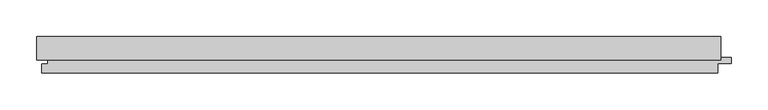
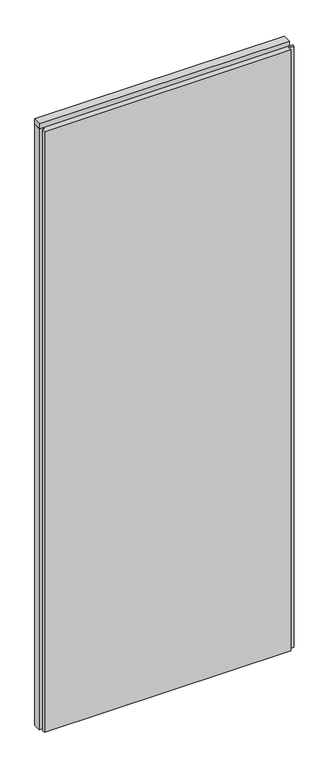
"""IFC4 building model written with IfcOpenShell, lengths in millimetres: plate geometry, Trimo_Qbiss Screen_Normal Panel-VERTICAL : HR - FB-F."""

from ifc_helpers import new_model, si_unit, frame, origin, place, context, project, spatial, polyline, outline, extrude, source, transform, mapped, element, save


def plate_a541179a(model_context):
    return source(origin(), model_context, "Body", "SweptSolid", [
        extrude(outline(polyline([(-467.0, 93.9), (-467.0, 126.0), (467.0, 126.0), (467.0, 93.9), (-467.0, 93.9)])), frame((0.0, 0.0, 2390.5), z_axis=(0.0, 0.0, 1.0), x_axis=(1.0, 0.0, 0.0)), (0.0, 0.0, 1.0), 19.0),
        extrude(outline(polyline([(463.0, 97.0), (481.5, 97.0), (481.5, 89.0), (463.0, 89.0), (463.0, 76.0), (-460.0, 76.0), (-460.0, 88.0), (-451.5, 88.0), (-451.5, 98.0), (-467.0, 98.0), (-467.0, 126.0), (463.0, 126.0), (463.0, 97.0)])), frame((0.0, 0.0, 12.5), z_axis=(0.0, 0.0, 1.0), x_axis=(1.0, 0.0, 0.0)), (0.0, 0.0, 1.0), 2375.0),
    ])


if __name__ == "__main__":
    model = new_model("IFC4")
    model_context = context("Model", 3, world=origin())
    ifc_project = project(units=[si_unit("LENGTHUNIT", "METRE", prefix="MILLI")], contexts=[model_context])
    site = spatial("IfcSite", under=ifc_project)
    building = spatial("IfcBuilding", under=site)
    placement = place(None, origin())
    plate_shape = plate_a541179a(model_context)
    element("IfcPlate", 1, ObjectType="Trimo_Qbiss Screen_Normal Panel-VERTICAL : HR - FB-F", at=placement, inside=building, context=model_context, shape_type="MappedRepresentation", body=[
        mapped(plate_shape, transform((0.0, 0.0, 0.0), x_axis=(1.0, 0.0, 0.0), y_axis=(0.0, 1.0, 0.0), z_axis=(0.0, 0.0, 1.0))),
    ])
    save(model, "model.ifc")
